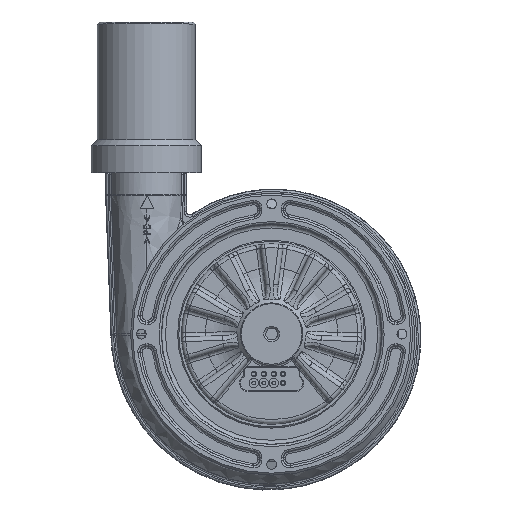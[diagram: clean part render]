
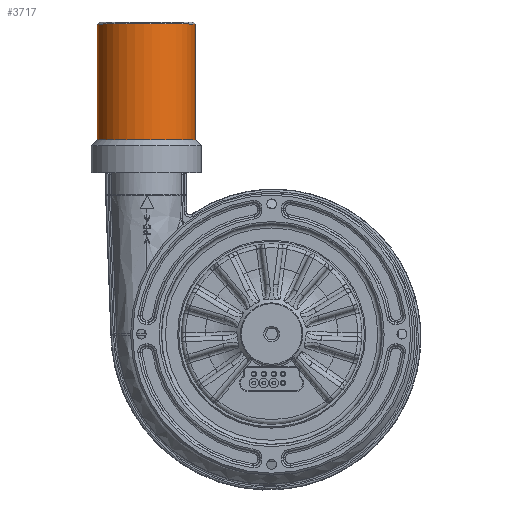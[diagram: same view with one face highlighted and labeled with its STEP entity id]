
A CAD part, top view. The second image highlights one B-rep face of the part: STEP entity #3717.
In plain terms, the highlighted cylindrical face has radius 12.5 mm (diameter 25 mm), a full revolution.
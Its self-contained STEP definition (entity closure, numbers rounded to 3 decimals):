
#370=FACE_BOUND('',#6506,.T.);
#371=FACE_BOUND('',#6507,.T.);
#1144=CYLINDRICAL_SURFACE('',#20618,12.5);
#3717=ADVANCED_FACE('',(#370,#371),#1144,.T.);
#6506=EDGE_LOOP('',(#12832));
#6507=EDGE_LOOP('',(#12833));
#7091=CIRCLE('',#20615,12.5);
#7092=CIRCLE('',#20617,12.5);
#12832=ORIENTED_EDGE('',*,*,#17483,.T.);
#12833=ORIENTED_EDGE('',*,*,#17482,.T.);
#14607=VERTEX_POINT('',#47882);
#14608=VERTEX_POINT('',#47885);
#17482=EDGE_CURVE('',#14607,#14607,#7091,.T.);
#17483=EDGE_CURVE('',#14608,#14608,#7092,.T.);
#20615=AXIS2_PLACEMENT_3D('',#47881,#24409,#24410);
#20617=AXIS2_PLACEMENT_3D('',#47884,#24413,#24414);
#20618=AXIS2_PLACEMENT_3D('',#47886,#24415,#24416);
#24409=DIRECTION('',(0.,1.,0.));
#24410=DIRECTION('',(0.547,0.,-0.837));
#24413=DIRECTION('',(0.,-1.,0.));
#24414=DIRECTION('',(-0.547,0.,0.837));
#24415=DIRECTION('',(0.,1.,0.));
#24416=DIRECTION('',(0.547,0.,-0.837));
#47881=CARTESIAN_POINT('',(-32.,49.7,-1.5));
#47882=CARTESIAN_POINT('',(-25.163,49.7,-11.965));
#47884=CARTESIAN_POINT('',(-32.,79.2,-1.5));
#47885=CARTESIAN_POINT('',(-38.837,79.2,8.965));
#47886=CARTESIAN_POINT('',(-32.,47.2,-1.5));
